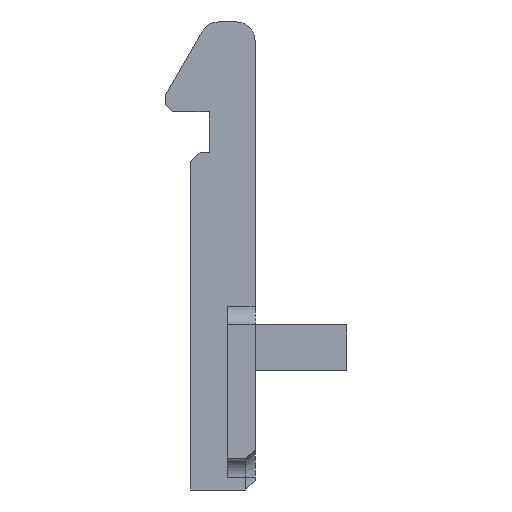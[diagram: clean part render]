
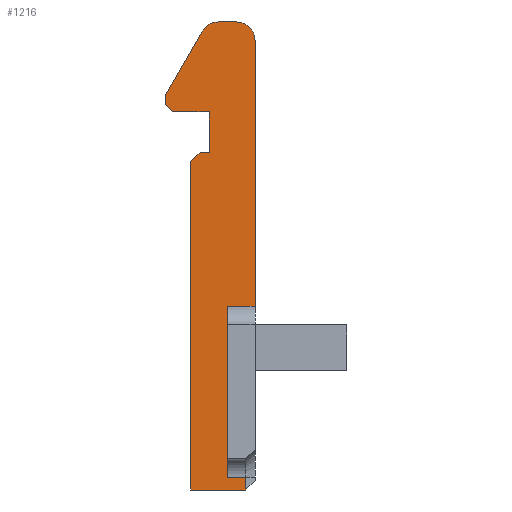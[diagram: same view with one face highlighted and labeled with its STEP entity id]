
A CAD part, front view. The second image highlights one B-rep face of the part: STEP entity #1216.
In plain terms, the highlighted planar face has unit normal (0, -1, 0).
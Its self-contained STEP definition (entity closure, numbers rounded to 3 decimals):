
#15 = VECTOR ( 'NONE', #2029, 1000. ) ;
#24 = LINE ( 'NONE', #1595, #1196 ) ;
#40 = EDGE_CURVE ( 'NONE', #2212, #1439, #709, .T. ) ;
#59 = CARTESIAN_POINT ( 'NONE',  ( -67.3, 49.95, 10. ) ) ;
#65 = DIRECTION ( 'NONE',  ( 1., 0., 0. ) ) ;
#100 = DIRECTION ( 'NONE',  ( 0., 0., 1. ) ) ;
#141 = CARTESIAN_POINT ( 'NONE',  ( -71.8, 49.95, 20.6 ) ) ;
#149 = VECTOR ( 'NONE', #65, 1000. ) ;
#161 = ORIENTED_EDGE ( 'NONE', *, *, #40, .T. ) ;
#172 = CARTESIAN_POINT ( 'NONE',  ( -69.313, 49.95, 24.5 ) ) ;
#175 = LINE ( 'NONE', #921, #15 ) ;
#176 = CARTESIAN_POINT ( 'NONE',  ( -67.3, 49.95, 22.5 ) ) ;
#184 = CARTESIAN_POINT ( 'NONE',  ( -72.2, 49.95, 21.5 ) ) ;
#202 = LINE ( 'NONE', #799, #149 ) ;
#208 = CARTESIAN_POINT ( 'NONE',  ( -67.8, 49.95, 0. ) ) ;
#215 = ORIENTED_EDGE ( 'NONE', *, *, #358, .T. ) ;
#227 = EDGE_CURVE ( 'NONE', #1439, #385, #1923, .T. ) ;
#231 = AXIS2_PLACEMENT_3D ( 'NONE', #172, #1469, #519 ) ;
#235 = LINE ( 'NONE', #59, #1797 ) ;
#267 = CARTESIAN_POINT ( 'NONE',  ( -67.3, 49.95, 10. ) ) ;
#297 = CARTESIAN_POINT ( 'NONE',  ( -69.313, 49.95, 25.5 ) ) ;
#298 = LINE ( 'NONE', #2248, #1149 ) ;
#317 = VERTEX_POINT ( 'NONE', #1315 ) ;
#321 = EDGE_CURVE ( 'NONE', #1001, #612, #2349, .T. ) ;
#340 = EDGE_CURVE ( 'NONE', #1021, #2078, #2112, .T. ) ;
#358 = EDGE_CURVE ( 'NONE', #1302, #1550, #298, .T. ) ;
#360 = CARTESIAN_POINT ( 'NONE',  ( -70.8, 49.95, 0. ) ) ;
#385 = VERTEX_POINT ( 'NONE', #595 ) ;
#396 = DIRECTION ( 'NONE',  ( 0., 0., 1. ) ) ;
#416 = CARTESIAN_POINT ( 'NONE',  ( -67.8, 49.95, 0.7 ) ) ;
#420 = ORIENTED_EDGE ( 'NONE', *, *, #853, .T. ) ;
#422 = ORIENTED_EDGE ( 'NONE', *, *, #340, .F. ) ;
#434 = CARTESIAN_POINT ( 'NONE',  ( -68.8, 49.95, 0.7 ) ) ;
#446 = VECTOR ( 'NONE', #396, 1000. ) ;
#454 = CARTESIAN_POINT ( 'NONE',  ( -69.8, 49.95, 20.6 ) ) ;
#475 = VERTEX_POINT ( 'NONE', #297 ) ;
#483 = ORIENTED_EDGE ( 'NONE', *, *, #2324, .T. ) ;
#487 = DIRECTION ( 'NONE',  ( 0., 1., 0. ) ) ;
#488 = EDGE_CURVE ( 'NONE', #1001, #919, #24, .T. ) ;
#510 = CARTESIAN_POINT ( 'NONE',  ( -68.8, 49.95, 0.7 ) ) ;
#519 = DIRECTION ( 'NONE',  ( 0., 0., 1. ) ) ;
#521 = DIRECTION ( 'NONE',  ( 0., 0., -1. ) ) ;
#584 = ORIENTED_EDGE ( 'NONE', *, *, #2198, .F. ) ;
#595 = CARTESIAN_POINT ( 'NONE',  ( -67.8, 49.95, 0.7 ) ) ;
#612 = VERTEX_POINT ( 'NONE', #141 ) ;
#661 = LINE ( 'NONE', #1561, #1504 ) ;
#683 = ORIENTED_EDGE ( 'NONE', *, *, #972, .T. ) ;
#703 = ORIENTED_EDGE ( 'NONE', *, *, #1707, .T. ) ;
#709 = LINE ( 'NONE', #847, #1094 ) ;
#748 = CARTESIAN_POINT ( 'NONE',  ( -69.313, 49.95, 26.5 ) ) ;
#785 = EDGE_CURVE ( 'NONE', #1021, #1858, #235, .T. ) ;
#796 = DIRECTION ( 'NONE',  ( -0.707, 0., -0.707 ) ) ;
#797 = VECTOR ( 'NONE', #1553, 1000. ) ;
#799 = CARTESIAN_POINT ( 'NONE',  ( -69.891, 49.95, 25.5 ) ) ;
#810 = DIRECTION ( 'NONE',  ( -1., 0., 0. ) ) ;
#847 = CARTESIAN_POINT ( 'NONE',  ( -70.8, 49.95, 0. ) ) ;
#853 = EDGE_CURVE ( 'NONE', #1222, #1302, #1423, .T. ) ;
#862 = VERTEX_POINT ( 'NONE', #454 ) ;
#873 = CARTESIAN_POINT ( 'NONE',  ( -70.3, 49.95, 18.4 ) ) ;
#876 = CARTESIAN_POINT ( 'NONE',  ( -70.8, 49.95, 17.9 ) ) ;
#879 = ORIENTED_EDGE ( 'NONE', *, *, #227, .T. ) ;
#906 = CARTESIAN_POINT ( 'NONE',  ( -68.3, 49.95, 24.5 ) ) ;
#907 = ORIENTED_EDGE ( 'NONE', *, *, #488, .F. ) ;
#919 = VERTEX_POINT ( 'NONE', #184 ) ;
#921 = CARTESIAN_POINT ( 'NONE',  ( -70.8, 49.95, 22.5 ) ) ;
#929 = FACE_OUTER_BOUND ( 'NONE', #1494, .T. ) ;
#972 = EDGE_CURVE ( 'NONE', #1550, #2212, #175, .T. ) ;
#998 = CARTESIAN_POINT ( 'NONE',  ( -68.3, 49.95, 25.5 ) ) ;
#1001 = VERTEX_POINT ( 'NONE', #1319 ) ;
#1006 = EDGE_CURVE ( 'NONE', #475, #1128, #202, .T. ) ;
#1021 = VERTEX_POINT ( 'NONE', #1888 ) ;
#1094 = VECTOR ( 'NONE', #2123, 1000. ) ;
#1111 = DIRECTION ( 'NONE',  ( -0.5, 0., -0.866 ) ) ;
#1128 = VERTEX_POINT ( 'NONE', #998 ) ;
#1134 = LINE ( 'NONE', #748, #1161 ) ;
#1149 = VECTOR ( 'NONE', #796, 1000. ) ;
#1161 = VECTOR ( 'NONE', #1111, 1000. ) ;
#1178 = ORIENTED_EDGE ( 'NONE', *, *, #1262, .F. ) ;
#1196 = VECTOR ( 'NONE', #100, 1000. ) ;
#1216 = ADVANCED_FACE ( 'NONE', ( #929 ), #1576, .F. ) ;
#1222 = VERTEX_POINT ( 'NONE', #1403 ) ;
#1224 = DIRECTION ( 'NONE',  ( -1., 0., 0. ) ) ;
#1262 = EDGE_CURVE ( 'NONE', #862, #612, #1681, .T. ) ;
#1294 = ORIENTED_EDGE ( 'NONE', *, *, #785, .T. ) ;
#1297 = VECTOR ( 'NONE', #1224, 1000. ) ;
#1302 = VERTEX_POINT ( 'NONE', #873 ) ;
#1315 = CARTESIAN_POINT ( 'NONE',  ( -70.179, 49.95, 25. ) ) ;
#1319 = CARTESIAN_POINT ( 'NONE',  ( -72.2, 49.95, 21. ) ) ;
#1349 = VECTOR ( 'NONE', #810, 1000. ) ;
#1381 = DIRECTION ( 'NONE',  ( 1., 0., 0. ) ) ;
#1403 = CARTESIAN_POINT ( 'NONE',  ( -69.8, 49.95, 18.4 ) ) ;
#1423 = LINE ( 'NONE', #2148, #2273 ) ;
#1437 = ORIENTED_EDGE ( 'NONE', *, *, #321, .T. ) ;
#1439 = VERTEX_POINT ( 'NONE', #208 ) ;
#1469 = DIRECTION ( 'NONE',  ( 0., -1., 0. ) ) ;
#1474 = AXIS2_PLACEMENT_3D ( 'NONE', #906, #1630, #2185 ) ;
#1494 = EDGE_LOOP ( 'NONE', ( #161, #879, #483, #422, #1294, #1877, #2139, #1554, #703, #1649, #907, #1437, #1178, #584, #420, #215, #683 ) ) ;
#1504 = VECTOR ( 'NONE', #1832, 1000. ) ;
#1505 = CIRCLE ( 'NONE', #231, 1. ) ;
#1525 = VERTEX_POINT ( 'NONE', #1793 ) ;
#1538 = CARTESIAN_POINT ( 'NONE',  ( -68.8, 49.95, 22.5 ) ) ;
#1550 = VERTEX_POINT ( 'NONE', #876 ) ;
#1553 = DIRECTION ( 'NONE',  ( 0., 0., -1. ) ) ;
#1554 = ORIENTED_EDGE ( 'NONE', *, *, #1006, .F. ) ;
#1561 = CARTESIAN_POINT ( 'NONE',  ( -69.8, 49.95, 20.6 ) ) ;
#1576 = PLANE ( 'NONE',  #2277 ) ;
#1595 = CARTESIAN_POINT ( 'NONE',  ( -72.2, 49.95, 20.6 ) ) ;
#1627 = CIRCLE ( 'NONE', #1474, 1. ) ;
#1628 = EDGE_CURVE ( 'NONE', #1525, #1128, #1627, .T. ) ;
#1630 = DIRECTION ( 'NONE',  ( 0., -1., 0. ) ) ;
#1649 = ORIENTED_EDGE ( 'NONE', *, *, #1779, .T. ) ;
#1681 = LINE ( 'NONE', #2315, #1297 ) ;
#1707 = EDGE_CURVE ( 'NONE', #475, #317, #1505, .T. ) ;
#1718 = CARTESIAN_POINT ( 'NONE',  ( -72.2, 49.95, 21. ) ) ;
#1758 = DIRECTION ( 'NONE',  ( -1., 0., 0. ) ) ;
#1779 = EDGE_CURVE ( 'NONE', #317, #919, #1134, .T. ) ;
#1790 = CARTESIAN_POINT ( 'NONE',  ( -70.8, 49.95, 22.5 ) ) ;
#1793 = CARTESIAN_POINT ( 'NONE',  ( -67.3, 49.95, 24.5 ) ) ;
#1797 = VECTOR ( 'NONE', #1381, 1000. ) ;
#1832 = DIRECTION ( 'NONE',  ( 0., 0., 1. ) ) ;
#1848 = VECTOR ( 'NONE', #521, 1000. ) ;
#1858 = VERTEX_POINT ( 'NONE', #267 ) ;
#1877 = ORIENTED_EDGE ( 'NONE', *, *, #2224, .F. ) ;
#1888 = CARTESIAN_POINT ( 'NONE',  ( -68.8, 49.95, 10. ) ) ;
#1901 = DIRECTION ( 'NONE',  ( 0.707, 0., -0.707 ) ) ;
#1923 = LINE ( 'NONE', #416, #446 ) ;
#2029 = DIRECTION ( 'NONE',  ( 0., 0., -1. ) ) ;
#2078 = VERTEX_POINT ( 'NONE', #510 ) ;
#2112 = LINE ( 'NONE', #1538, #797 ) ;
#2123 = DIRECTION ( 'NONE',  ( 1., 0., 0. ) ) ;
#2139 = ORIENTED_EDGE ( 'NONE', *, *, #1628, .T. ) ;
#2148 = CARTESIAN_POINT ( 'NONE',  ( -69.8, 49.95, 18.4 ) ) ;
#2163 = DIRECTION ( 'NONE',  ( 0., 0., 1. ) ) ;
#2184 = LINE ( 'NONE', #176, #1848 ) ;
#2185 = DIRECTION ( 'NONE',  ( 0., 0., 1. ) ) ;
#2198 = EDGE_CURVE ( 'NONE', #1222, #862, #661, .T. ) ;
#2212 = VERTEX_POINT ( 'NONE', #360 ) ;
#2224 = EDGE_CURVE ( 'NONE', #1525, #1858, #2184, .T. ) ;
#2248 = CARTESIAN_POINT ( 'NONE',  ( -70.3, 49.95, 18.4 ) ) ;
#2252 = VECTOR ( 'NONE', #1901, 1000. ) ;
#2273 = VECTOR ( 'NONE', #1758, 1000. ) ;
#2277 = AXIS2_PLACEMENT_3D ( 'NONE', #1790, #487, #2163 ) ;
#2293 = LINE ( 'NONE', #434, #1349 ) ;
#2315 = CARTESIAN_POINT ( 'NONE',  ( -69.8, 49.95, 20.6 ) ) ;
#2324 = EDGE_CURVE ( 'NONE', #385, #2078, #2293, .T. ) ;
#2349 = LINE ( 'NONE', #1718, #2252 ) ;
